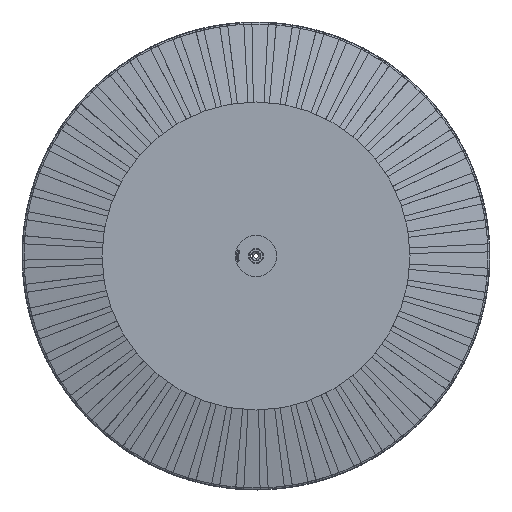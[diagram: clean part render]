
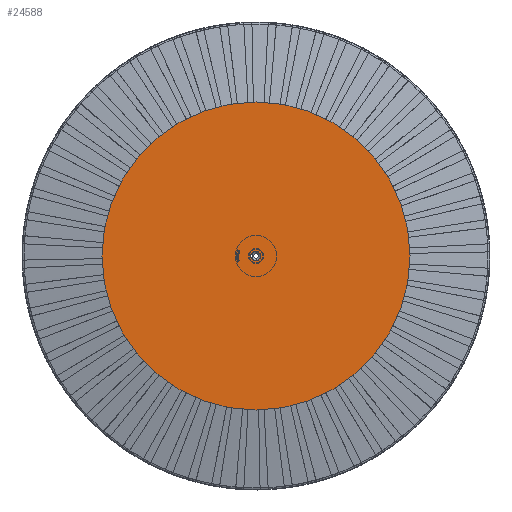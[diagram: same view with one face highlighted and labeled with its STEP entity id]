
A CAD part, front view. The second image highlights one B-rep face of the part: STEP entity #24588.
In plain terms, the highlighted planar face has unit normal (0, -1, 0).
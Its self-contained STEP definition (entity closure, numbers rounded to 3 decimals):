
#170 = CIRCLE ( 'NONE', #2555, 8.96 ) ;
#423 = DIRECTION ( 'NONE',  ( 0., 0., -1. ) ) ;
#784 = DIRECTION ( 'NONE',  ( 0., 0., 1. ) ) ;
#1260 = PLANE ( 'NONE',  #32251 ) ;
#1685 = CARTESIAN_POINT ( 'NONE',  ( 0., 0., 8.96 ) ) ;
#2173 = ORIENTED_EDGE ( 'NONE', *, *, #44200, .F. ) ;
#2273 = CARTESIAN_POINT ( 'NONE',  ( -9., 0., -2.8 ) ) ;
#2555 = AXIS2_PLACEMENT_3D ( 'NONE', #34379, #26722, #38103 ) ;
#4575 = ORIENTED_EDGE ( 'NONE', *, *, #32561, .F. ) ;
#5067 = CARTESIAN_POINT ( 'NONE',  ( 0., 0., 0. ) ) ;
#5153 = CIRCLE ( 'NONE', #37690, 2.8 ) ;
#5834 = AXIS2_PLACEMENT_3D ( 'NONE', #36730, #21133, #5951 ) ;
#5951 = DIRECTION ( 'NONE',  ( 0., 0., -1. ) ) ;
#6147 = EDGE_CURVE ( 'NONE', #33624, #27356, #15582, .T. ) ;
#6607 = CIRCLE ( 'NONE', #5834, 2.8 ) ;
#7554 = VERTEX_POINT ( 'NONE', #42336 ) ;
#8215 = FACE_BOUND ( 'NONE', #13367, .T. ) ;
#8558 = EDGE_LOOP ( 'NONE', ( #2173, #37537 ) ) ;
#10557 = ORIENTED_EDGE ( 'NONE', *, *, #43217, .F. ) ;
#11063 = CARTESIAN_POINT ( 'NONE',  ( 0., 0., -8.96 ) ) ;
#11239 = VERTEX_POINT ( 'NONE', #1685 ) ;
#11969 = DIRECTION ( 'NONE',  ( 0., 0., -1. ) ) ;
#12331 = DIRECTION ( 'NONE',  ( 0., -1., 0. ) ) ;
#13367 = EDGE_LOOP ( 'NONE', ( #22601, #17028, #16728, #24184, #10557, #4575 ) ) ;
#13522 = CARTESIAN_POINT ( 'NONE',  ( 0., 0., 0. ) ) ;
#14115 = AXIS2_PLACEMENT_3D ( 'NONE', #13522, #36367, #21714 ) ;
#15582 = CIRCLE ( 'NONE', #41709, 297.5 ) ;
#16728 = ORIENTED_EDGE ( 'NONE', *, *, #18564, .F. ) ;
#17028 = ORIENTED_EDGE ( 'NONE', *, *, #26467, .F. ) ;
#17703 = AXIS2_PLACEMENT_3D ( 'NONE', #22241, #49073, #26211 ) ;
#18564 = EDGE_CURVE ( 'NONE', #26130, #40427, #18679, .T. ) ;
#18679 = CIRCLE ( 'NONE', #46444, 2.8 ) ;
#18951 = CARTESIAN_POINT ( 'NONE',  ( 0., 0., 297.5 ) ) ;
#18968 = VERTEX_POINT ( 'NONE', #11063 ) ;
#20233 = DIRECTION ( 'NONE',  ( 0., 0., -1. ) ) ;
#20806 = CARTESIAN_POINT ( 'NONE',  ( -9., 0., 2.8 ) ) ;
#21133 = DIRECTION ( 'NONE',  ( 0., -1., 0. ) ) ;
#21714 = DIRECTION ( 'NONE',  ( 0., 0., -1. ) ) ;
#22241 = CARTESIAN_POINT ( 'NONE',  ( 0., 0., 0. ) ) ;
#22601 = ORIENTED_EDGE ( 'NONE', *, *, #38989, .F. ) ;
#24184 = ORIENTED_EDGE ( 'NONE', *, *, #30925, .F. ) ;
#24588 = ADVANCED_FACE ( 'NONE', ( #27347, #8215 ), #1260, .F. ) ;
#25564 = CIRCLE ( 'NONE', #31906, 8.96 ) ;
#25618 = CIRCLE ( 'NONE', #17703, 297.5 ) ;
#26130 = VERTEX_POINT ( 'NONE', #20806 ) ;
#26211 = DIRECTION ( 'NONE',  ( 0., 0., 1. ) ) ;
#26467 = EDGE_CURVE ( 'NONE', #40427, #32106, #5153, .T. ) ;
#26618 = CARTESIAN_POINT ( 'NONE',  ( -9., 0., 0. ) ) ;
#26722 = DIRECTION ( 'NONE',  ( 0., -1., 0. ) ) ;
#27238 = CARTESIAN_POINT ( 'NONE',  ( -9., 0., 0. ) ) ;
#27347 = FACE_OUTER_BOUND ( 'NONE', #8558, .T. ) ;
#27356 = VERTEX_POINT ( 'NONE', #36007 ) ;
#30925 = EDGE_CURVE ( 'NONE', #7554, #26130, #6607, .T. ) ;
#31320 = DIRECTION ( 'NONE',  ( 0., 1., 0. ) ) ;
#31906 = AXIS2_PLACEMENT_3D ( 'NONE', #5067, #39329, #20233 ) ;
#32106 = VERTEX_POINT ( 'NONE', #48636 ) ;
#32251 = AXIS2_PLACEMENT_3D ( 'NONE', #35006, #31320, #784 ) ;
#32561 = EDGE_CURVE ( 'NONE', #18968, #11239, #25564, .T. ) ;
#33624 = VERTEX_POINT ( 'NONE', #18951 ) ;
#34379 = CARTESIAN_POINT ( 'NONE',  ( 0., 0., 0. ) ) ;
#35006 = CARTESIAN_POINT ( 'NONE',  ( 0., 0., 0. ) ) ;
#35194 = CARTESIAN_POINT ( 'NONE',  ( 0., 0., 0. ) ) ;
#35509 = CIRCLE ( 'NONE', #14115, 8.96 ) ;
#36007 = CARTESIAN_POINT ( 'NONE',  ( 0., 0., -297.5 ) ) ;
#36367 = DIRECTION ( 'NONE',  ( 0., -1., 0. ) ) ;
#36730 = CARTESIAN_POINT ( 'NONE',  ( -9., 0., 0. ) ) ;
#37537 = ORIENTED_EDGE ( 'NONE', *, *, #6147, .F. ) ;
#37690 = AXIS2_PLACEMENT_3D ( 'NONE', #27238, #12331, #423 ) ;
#38103 = DIRECTION ( 'NONE',  ( 0., 0., -1. ) ) ;
#38499 = DIRECTION ( 'NONE',  ( 0., -1., 0. ) ) ;
#38922 = DIRECTION ( 'NONE',  ( 0., 0., 1. ) ) ;
#38989 = EDGE_CURVE ( 'NONE', #32106, #18968, #35509, .T. ) ;
#39329 = DIRECTION ( 'NONE',  ( 0., -1., 0. ) ) ;
#40427 = VERTEX_POINT ( 'NONE', #2273 ) ;
#41709 = AXIS2_PLACEMENT_3D ( 'NONE', #35194, #45952, #38922 ) ;
#42336 = CARTESIAN_POINT ( 'NONE',  ( -8.525, 0., 2.759 ) ) ;
#43217 = EDGE_CURVE ( 'NONE', #11239, #7554, #170, .T. ) ;
#44200 = EDGE_CURVE ( 'NONE', #27356, #33624, #25618, .T. ) ;
#45952 = DIRECTION ( 'NONE',  ( 0., 1., 0. ) ) ;
#46444 = AXIS2_PLACEMENT_3D ( 'NONE', #26618, #38499, #11969 ) ;
#48636 = CARTESIAN_POINT ( 'NONE',  ( -8.525, 0., -2.759 ) ) ;
#49073 = DIRECTION ( 'NONE',  ( 0., 1., 0. ) ) ;
